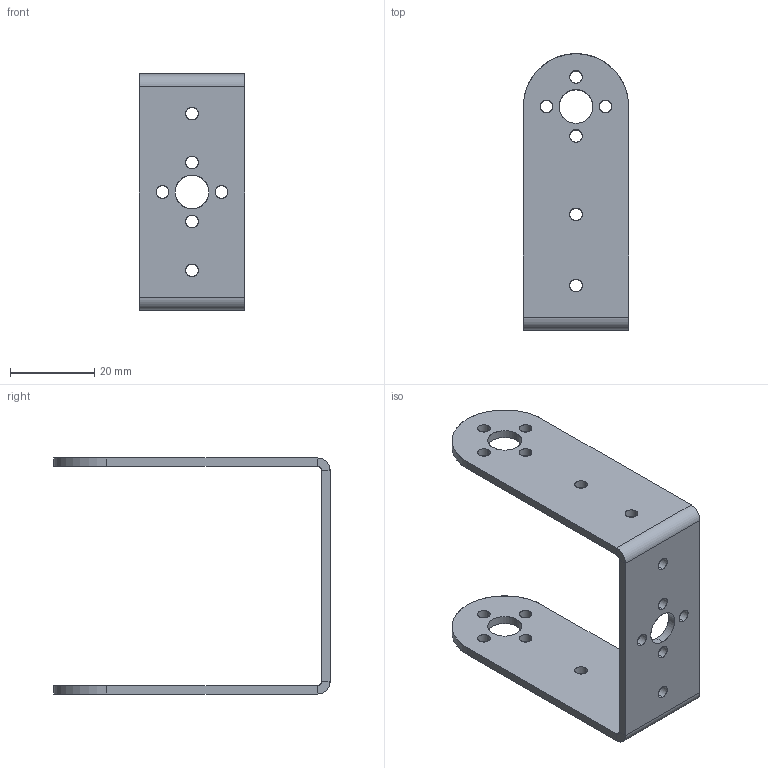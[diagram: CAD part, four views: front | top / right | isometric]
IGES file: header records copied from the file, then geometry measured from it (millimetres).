
Start section: SolidWorks IGES file using analytic representation for surfaces
Global section: file name: C:\Users\Alexandre\Dropbox\Etudes\Solidworks\Servo Mounts\Servo Bracket - U Shaped bis_Défaut.igs; native system: SolidWorks 2015; preprocessor: SolidWorks 2015; author: Alexandre; date: 150906.125915; units: millimetre
Bounding box: 25 x 65.5 x 56 mm (x, y, z)
Surface area: 9512.2 mm2 (no closed solid volume)
Topology: 0 solids, 0 shells, 64 faces, 1716 edges, 1716 vertices
Faces by surface type: revolution 48, bspline 16
